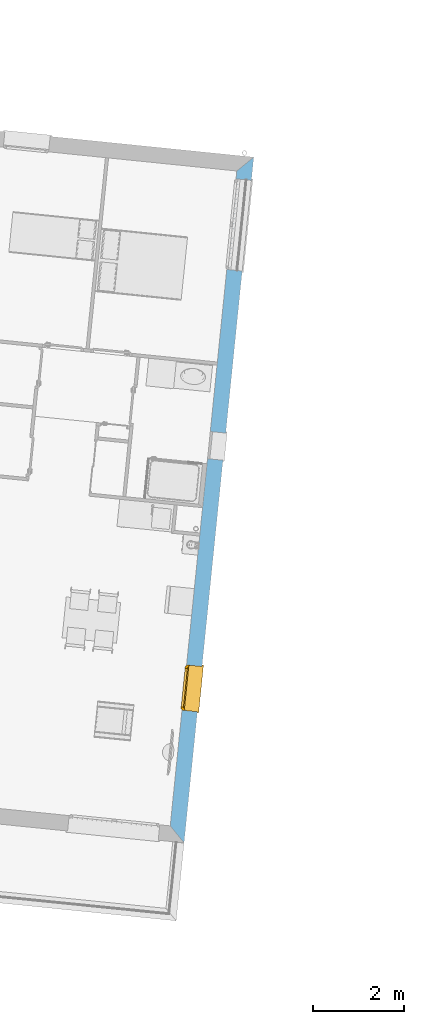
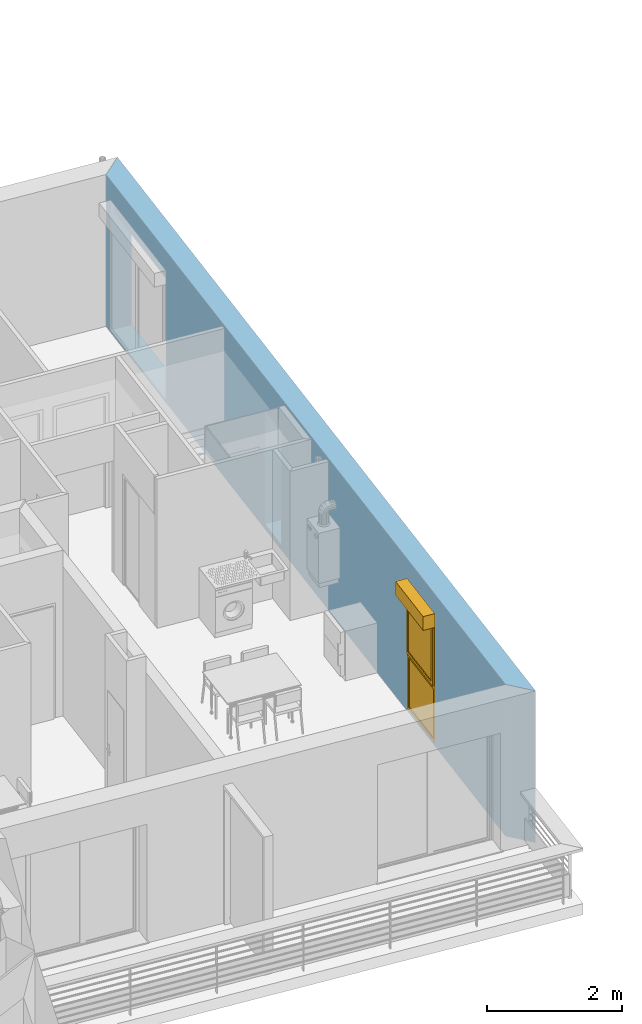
# One storey, part 58 of 164: 1 window, 3 openings, plus 1 element that does not belong to this part.
"""IFC2X3 building model written with IfcOpenShell, lengths in millimetres."""

from ifc_helpers import new_model, entity, si_unit, converted_unit, derived_unit, money_unit, direction, frame, origin_with_axes, origin_2d_with_axis, place, context, subcontext, project, spatial, polyline, rectangle, outline, extrude, open_shell, faceted_brep, surface_model, source, transform, mapped, material, layer, layer_set, layer_usage, type_object, element, fill, save


model = new_model("IFC2X3")

# Units and contexts
model_context = context("Model", 3, precision=0.01, world=origin_with_axes(), true_north=direction((0.0, 1.0)))
body_context = subcontext(model_context, "Body", "Model", "MODEL_VIEW")
ifc_project = project(units=[si_unit("LENGTHUNIT", "METRE", prefix="MILLI"), si_unit("AREAUNIT", "SQUARE_METRE"), si_unit("VOLUMEUNIT", "CUBIC_METRE"), converted_unit("PLANEANGLEUNIT", "DEGREE", entity("IfcPlaneAngleMeasure", 0.0174532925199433), si_unit("PLANEANGLEUNIT", "RADIAN"), dimensions=[0, 0, 0, 0, 0, 0, 0]), money_unit("USD"), converted_unit("TIMEUNIT", "Year", entity("IfcTimeMeasure", 31557600.0), si_unit("TIMEUNIT", "SECOND"), dimensions=[0, 0, 1, 0, 0, 0, 0]), si_unit("MASSUNIT", "GRAM", prefix="KILO"), si_unit("THERMODYNAMICTEMPERATUREUNIT", "DEGREE_CELSIUS"), si_unit("LUMINOUSINTENSITYUNIT", "LUMEN"), si_unit("ENERGYUNIT", "JOULE", prefix="MEGA"), derived_unit("THERMALCONDUCTANCEUNIT", [(si_unit("POWERUNIT", "WATT"), 1), (si_unit("LENGTHUNIT", "METRE"), -1), (si_unit("THERMODYNAMICTEMPERATUREUNIT", "KELVIN"), -1)]), derived_unit("SPECIFICHEATCAPACITYUNIT", [(si_unit("ENERGYUNIT", "JOULE"), 1), (si_unit("MASSUNIT", "GRAM", prefix="KILO"), -1), (si_unit("THERMODYNAMICTEMPERATUREUNIT", "KELVIN"), -1)]), derived_unit("MASSDENSITYUNIT", [(si_unit("MASSUNIT", "GRAM", prefix="KILO"), 1), (si_unit("VOLUMEUNIT", "CUBIC_METRE"), -1)])], contexts=[model_context])

# Site, building, storey
site_placement = place(None, origin_with_axes())
site = spatial("IfcSite", under=ifc_project, at=site_placement, Name="Site", CompositionType="ELEMENT")
building_placement = place(site_placement, origin_with_axes())
building = spatial("IfcBuilding", under=site, at=building_placement, Name="Bâtiment", CompositionType="ELEMENT")
storey_placement = place(building_placement, frame((0.0, 0.0, 5750.0), z_axis=(0.0, 0.0, 1.0), x_axis=(1.0, 0.0, 0.0)))
storey = spatial("IfcBuildingStorey", under=building, at=storey_placement, Name="Etage1", CompositionType="ELEMENT", Elevation=5750.0)

# Wall, openings, window
ifc_material_1 = material(Name="Parpaing 312445824")
ifc_layer_1 = layer(ifc_material_1, 180.0, ventilated="UNKNOWN")
ifc_material_2 = material(Name="Isolant styromousse 301821074")
ifc_layer_2 = layer(ifc_material_2, 160.0, ventilated="UNKNOWN")
ifc_layer_set = layer_set([ifc_layer_1, ifc_layer_2], Name="isol int 18+16 0018356637")
ifc_layer_usage = layer_usage(ifc_layer_set, "AXIS2", "NEGATIVE", 0.0)
wall_type = type_object("IfcWallType", Name="isol int 18+16 0018356637 340", PredefinedType="NOTDEFINED")
wall_placement = place(storey_placement, frame((2240182.946874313, -606236.1516955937, 0.0), z_axis=(0.0, 0.0, 1.0), x_axis=(-0.1011032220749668, -0.9948759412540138, 0.0)))
wall = element("IfcWallStandardCase", 1, at=wall_placement, inside=storey, type_object=wall_type, material=ifc_layer_usage, Name="Mur-142", context=body_context, shape_type="SweptSolid", body=[
    extrude(outline(polyline([(340.0000000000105, -340.0000000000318), (14791.61370310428, -340.0000000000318), (15131.61370310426, -1.13686837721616e-10), (0.0, 0.0), (340.0000000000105, -340.0000000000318)])), origin_with_axes(), (0.0, 0.0, 1.0), 2750.0),
])
opening_1_placement = place(wall_placement, frame((6388.845141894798, -3.410605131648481e-10, 99.99999999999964), z_axis=(0.0, 0.0, 1.0), x_axis=(1.0, 0.0, 0.0)))
element("IfcOpeningElement", 2, at=opening_1_placement, cuts=wall, Name="Fen-133", context=body_context, shape_type="SweptSolid", body=[
    extrude(rectangle(XDim=599.9999999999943, YDim=2050.0, at=origin_2d_with_axis()), frame((0.0, -290.0000000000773, 1025.0), z_axis=(0.0, -1.0, 0.0), x_axis=(-1.0, 0.0, 0.0)), (0.0, 0.0, -1.0), 629.9999999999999),
    extrude(rectangle(XDim=599.9999999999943, YDim=2050.0, at=origin_2d_with_axis()), frame((0.0, -290.0000000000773, 1025.0), z_axis=(0.0, 1.0, 0.0), x_axis=(-1.0, 0.0, 0.0)), (0.0, 0.0, -1.0), 389.9999999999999),
])
opening_2_placement = place(wall_placement, frame((11739.30937232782, -3.410605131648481e-10, 49.99999999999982), z_axis=(0.0, 0.0, 1.0), x_axis=(1.0, 0.0, 0.0)))
opening_2 = element("IfcOpeningElement", 3, at=opening_2_placement, cuts=wall, Name="Fen-133", context=body_context, shape_type="Brep", body=[
    faceted_brep([(-500.0, -290.0000000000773, 2100.0), (-500.0000000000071, -279.999999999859, 2100.0), (-499.9999999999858, 1523.015834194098, 2100.0), (-499.9999999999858, 1523.015834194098, 0.0), (-499.9999999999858, -290.0000000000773, 0.0), (-499.9999999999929, -529.9999999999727, 2100.0), (-499.9999999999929, -529.9999999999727, 2350.0), (-500.0000000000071, -279.999999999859, 2350.0), (500.0, -279.9999999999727, 2100.0), (500.0000000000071, 1523.015834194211, 2100.0), (500.0000000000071, 1523.015834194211, 0.0), (500.0000000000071, -289.9999999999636, 0.0), (500.0, -1863.015834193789, 0.0), (-500.0, -1863.015834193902, 0.0), (-500.0, -1863.015834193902, 2100.0), (500.0000000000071, -529.9999999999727, 2100.0), (500.0000000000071, -529.9999999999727, 2350.0), (500.0, -279.9999999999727, 2350.0), (500.0, -289.9999999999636, 2100.0), (500.0, -1863.015834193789, 2100.0)], [[[0, 1, 2, 3, 4]], [[1, 0, 5, 6, 7]], [[1, 8, 9, 2]], [[9, 10, 3, 2]], [[4, 3, 10, 11, 12, 13]], [[5, 0, 4, 13, 14]], [[5, 15, 16, 6]], [[16, 17, 7, 6]], [[8, 1, 7, 17]], [[8, 18, 11, 10, 9]], [[18, 15, 19, 12, 11]], [[14, 13, 12, 19]], [[15, 5, 14, 19]], [[18, 8, 17, 16, 15]]]),
])
opening_3_placement = place(wall_placement, frame((1513.435922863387, -3.410605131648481e-10, 49.99999999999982), z_axis=(0.0, 0.0, 1.0), x_axis=(1.0, 0.0, 0.0)))
element("IfcOpeningElement", 4, at=opening_3_placement, cuts=wall, Name="Fen-207", context=body_context, shape_type="Brep", body=[
    faceted_brep([(-1000.0, -290.0000000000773, 2100.0), (-999.999999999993, -279.9999999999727, 2100.0), (-1000.000000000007, 1523.015834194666, 2100.0), (-1000.000000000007, 1523.015834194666, 0.0), (-999.999999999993, -290.0000000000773, 0.0), (-1000.0, -529.9999999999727, 2100.0), (-1000.0, -529.9999999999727, 2350.0), (-999.999999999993, -279.9999999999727, 2350.0), (1000.000000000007, -279.9999999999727, 2100.0), (1000.0, 1523.015834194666, 2100.0), (1000.0, 1523.015834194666, 0.0), (1000.0, -289.9999999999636, 0.0), (1000.000000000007, -1863.015834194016, 0.0), (-1000.0, -1863.015834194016, 0.0), (-1000.0, -1863.015834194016, 2100.0), (1000.0, -530.0000000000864, 2100.0), (1000.0, -530.0000000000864, 2350.0), (1000.000000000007, -279.9999999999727, 2350.0), (1000.0, -289.9999999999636, 2100.0), (1000.000000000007, -1863.015834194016, 2100.0)], [[[0, 1, 2, 3, 4]], [[1, 0, 5, 6, 7]], [[1, 8, 9, 2]], [[9, 10, 3, 2]], [[4, 3, 10, 11, 12, 13]], [[5, 0, 4, 13, 14]], [[5, 15, 16, 6]], [[7, 6, 16, 17]], [[8, 1, 7, 17]], [[8, 18, 11, 10, 9]], [[18, 15, 19, 12, 11]], [[14, 13, 12, 19]], [[15, 5, 14, 19]], [[18, 8, 17, 16, 15]]]),
])
window_style = type_object("IfcWindowStyle", Name="Fenêtre 27", ConstructionType="NOTDEFINED", OperationType="DOUBLE_PANEL_HORIZONTAL", ParameterTakesPrecedence=False, Sizeable=False)
shared_shape = source(origin_with_axes(), body_context, "Body", "SurfaceModel", [
    surface_model("IfcShellBasedSurfaceModel", [(-500.0, -51.00000000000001, 40.00000000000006), (500.0, -51.00000000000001, 40.0), (500.0, -51.00000000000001, 50.0), (-500.0, -51.00000000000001, 50.00000000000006), (-530.0, -369.9999999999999, 28.96551724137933), (530.0, -369.9999999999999, 28.96551724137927), (530.0, -339.9999999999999, 30.00324289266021), (500.0, -339.9999999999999, 30.00324289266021), (-500.0, -339.9999999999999, 30.00324289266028), (-530.0, -339.9999999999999, 30.00324289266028), (-530.0, -369.9999999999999, 8.96551724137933), (530.0, -369.9999999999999, 8.965517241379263), (-530.0, -359.9999999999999, 18.96551724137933), (530.0, -359.9999999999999, 18.96551724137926)], [open_shell([[[0, 1, 2, 3]], [[4, 5, 6, 7, 1, 0, 8, 9]], [[10, 11, 5, 4]], [[12, 13, 11, 10]]])]),
    faceted_brep([(500.0, -59.99999999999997, 2350.0), (500.0, 190.0, 2350.0), (497.0, 190.0, 2350.0), (497.0, -59.99999999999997, 2350.0), (500.0, -59.99999999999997, 2100.0), (500.0, 190.0, 2100.0), (497.0, 190.0, 2100.0), (497.0, -59.99999999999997, 2100.0)], [[[0, 1, 2, 3]], [[0, 4, 5, 1]], [[1, 5, 6, 2]], [[3, 2, 6, 7]], [[4, 0, 3, 7]], [[5, 4, 7, 6]]]),
    faceted_brep([(-497.0, -59.99999999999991, 2350.0), (-497.0, 190.0000000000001, 2350.0), (-500.0, 190.0000000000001, 2350.0), (-500.0, -59.99999999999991, 2350.0), (-497.0, -59.99999999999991, 2100.0), (-497.0, 190.0000000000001, 2100.0), (-500.0, 190.0000000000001, 2100.0), (-500.0, -59.99999999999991, 2100.0)], [[[0, 1, 2, 3]], [[0, 4, 5, 1]], [[1, 5, 6, 2]], [[3, 2, 6, 7]], [[4, 0, 3, 7]], [[5, 4, 7, 6]]]),
    faceted_brep([(497.0, -60.0, 2100.0), (497.0, -60.0, 2350.0), (-497.0, -59.99999999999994, 2350.0), (-497.0, -59.99999999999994, 2100.0), (497.0, -56.99999999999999, 2100.0), (497.0, -56.99999999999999, 2347.0), (497.0, 187.0, 2347.0), (497.0, 187.0, 2103.0), (497.0, -37.99999999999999, 2103.0), (497.0, -37.99999999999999, 2100.0), (497.0, 190.0, 2100.0), (497.0, 190.0, 2350.0), (-497.0, 190.0000000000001, 2350.0), (-497.0, 190.0000000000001, 2100.0), (-497.0, -37.99999999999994, 2100.0), (-497.0, -37.99999999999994, 2103.0), (-497.0, 187.0000000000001, 2103.0), (-497.0, 187.0000000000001, 2347.0), (-497.0, -56.99999999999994, 2347.0), (-497.0, -56.99999999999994, 2100.0)], [[[0, 1, 2, 3]], [[0, 4, 5, 6, 7, 8, 9, 10, 11, 1]], [[1, 11, 12, 2]], [[3, 2, 12, 13, 14, 15, 16, 17, 18, 19]], [[4, 0, 3, 19]], [[5, 4, 19, 18]], [[6, 5, 18, 17]], [[7, 6, 17, 16]], [[8, 7, 16, 15]], [[9, 8, 15, 14]], [[10, 9, 14, 13]], [[11, 10, 13, 12]]]),
    faceted_brep([(494.0, -40.37442957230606, 2206.419644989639), (494.0, -35.54711042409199, 2188.403844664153), (494.0, -27.66471820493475, 2171.5), (494.0, -16.9667554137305, 2156.22172576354), (494.0, -3.778274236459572, 2143.03324458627), (494.0, 11.50000000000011, 2132.335281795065), (494.0, 28.40384466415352, 2124.452889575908), (494.0, 46.4196449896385, 2119.625570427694), (494.0, 65.00000000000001, 2118.0), (494.0, 83.58035501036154, 2119.625570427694), (494.0, 101.5961553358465, 2124.452889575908), (494.0, 118.4999999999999, 2132.335281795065), (494.0, 133.7782742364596, 2143.03324458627), (494.0, 146.9667554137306, 2156.22172576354), (494.0, 157.6647182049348, 2171.5), (494.0, 165.5471104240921, 2188.403844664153), (494.0, 170.3744295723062, 2206.419644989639), (494.0, 171.9999999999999, 2225.0), (494.0, 170.3744295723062, 2243.580355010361), (494.0, 165.5471104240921, 2261.596155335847), (494.0, 157.6647182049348, 2278.5), (494.0, 146.9667554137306, 2293.77827423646), (494.0, 133.7782742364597, 2306.966755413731), (494.0, 118.5, 2317.664718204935), (494.0, 101.5961553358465, 2325.547110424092), (494.0, 83.58035501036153, 2330.374429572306), (494.0, 64.99999999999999, 2332.0), (494.0, 46.41964498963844, 2330.374429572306), (494.0, 28.40384466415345, 2325.547110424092), (494.0, 11.5, 2317.664718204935), (494.0, -3.778274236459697, 2306.966755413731), (494.0, -16.96675541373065, 2293.77827423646), (494.0, -27.66471820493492, 2278.5), (494.0, -35.54711042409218, 2261.596155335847), (494.0, -40.37442957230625, 2243.580355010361), (494.0, -41.99999999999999, 2225.0), (-494.0, -40.374429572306, 2206.419644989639), (-494.0, -35.54711042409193, 2188.403844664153), (-494.0, -27.6647182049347, 2171.5), (-494.0, -16.96675541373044, 2156.22172576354), (-494.0, -3.778274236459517, 2143.03324458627), (-494.0, 11.50000000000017, 2132.335281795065), (-494.0, 28.40384466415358, 2124.452889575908), (-494.0, 46.41964498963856, 2119.625570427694), (-494.0, 65.00000000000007, 2118.0), (-494.0, 83.5803550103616, 2119.625570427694), (-494.0, 101.5961553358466, 2124.452889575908), (-494.0, 118.5, 2132.335281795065), (-494.0, 133.7782742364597, 2143.03324458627), (-494.0, 146.9667554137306, 2156.22172576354), (-494.0, 157.6647182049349, 2171.5), (-494.0, 165.5471104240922, 2188.403844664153), (-494.0, 170.3744295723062, 2206.419644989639), (-494.0, 172.0, 2225.0), (-494.0, 170.3744295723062, 2243.580355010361), (-494.0, 165.5471104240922, 2261.596155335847), (-494.0, 157.6647182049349, 2278.5), (-494.0, 146.9667554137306, 2293.77827423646), (-494.0, 133.7782742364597, 2306.966755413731), (-494.0, 118.5, 2317.664718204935), (-494.0, 101.5961553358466, 2325.547110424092), (-494.0, 83.58035501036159, 2330.374429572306), (-494.0, 65.00000000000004, 2332.0), (-494.0, 46.41964498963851, 2330.374429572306), (-494.0, 28.40384466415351, 2325.547110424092), (-494.0, 11.50000000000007, 2317.664718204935), (-494.0, -3.778274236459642, 2306.966755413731), (-494.0, -16.96675541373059, 2293.77827423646), (-494.0, -27.66471820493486, 2278.5), (-494.0, -35.54711042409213, 2261.596155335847), (-494.0, -40.37442957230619, 2243.580355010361), (-494.0, -41.99999999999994, 2225.0)], [[[0, 1, 2, 3, 4, 5, 6, 7, 8, 9, 10, 11, 12, 13, 14, 15, 16, 17, 18, 19, 20, 21, 22, 23, 24, 25, 26, 27, 28, 29, 30, 31, 32, 33, 34, 35]], [[1, 0, 36, 37]], [[2, 1, 37, 38]], [[3, 2, 38, 39]], [[4, 3, 39, 40]], [[5, 4, 40, 41]], [[6, 5, 41, 42]], [[7, 6, 42, 43]], [[8, 7, 43, 44]], [[9, 8, 44, 45]], [[10, 9, 45, 46]], [[11, 10, 46, 47]], [[12, 11, 47, 48]], [[13, 12, 48, 49]], [[14, 13, 49, 50]], [[15, 14, 50, 51]], [[16, 15, 51, 52]], [[17, 16, 52, 53]], [[18, 17, 53, 54]], [[19, 18, 54, 55]], [[20, 19, 55, 56]], [[21, 20, 56, 57]], [[22, 21, 57, 58]], [[23, 22, 58, 59]], [[24, 23, 59, 60]], [[25, 24, 60, 61]], [[26, 25, 61, 62]], [[27, 26, 62, 63]], [[28, 27, 63, 64]], [[29, 28, 64, 65]], [[30, 29, 65, 66]], [[31, 30, 66, 67]], [[32, 31, 67, 68]], [[33, 32, 68, 69]], [[34, 33, 69, 70]], [[35, 34, 70, 71]], [[0, 35, 71, 36]], [[36, 71, 70, 69, 68, 67, 66, 65, 64, 63, 62, 61, 60, 59, 58, 57, 56, 55, 54, 53, 52, 51, 50, 49, 48, 47, 46, 45, 44, 43, 42, 41, 40, 39, 38, 37]]]),
    faceted_brep([(-500.0, -34.99999999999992, 30.0), (-500.0, -59.99999999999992, 30.0), (-500.0, -59.99999999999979, 2100.0), (-500.0, -34.99999999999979, 2100.0), (-475.0, -34.99999999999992, 30.0), (-475.0, -37.99999999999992, 30.0), (-497.0, -37.99999999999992, 30.0), (-497.0, -56.99999999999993, 30.0), (-475.0, -56.99999999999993, 30.0), (-475.0, -59.99999999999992, 30.0), (-475.0, -59.99999999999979, 2100.0), (-475.0, -56.99999999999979, 2100.0), (-497.0, -56.99999999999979, 2100.0), (-497.0, -37.99999999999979, 2100.0), (-475.0, -37.99999999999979, 2100.0), (-475.0, -34.99999999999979, 2100.0)], [[[0, 1, 2, 3]], [[0, 4, 5, 6, 7, 8, 9, 1]], [[1, 9, 10, 2]], [[3, 2, 10, 11, 12, 13, 14, 15]], [[4, 0, 3, 15]], [[5, 4, 15, 14]], [[6, 5, 14, 13]], [[7, 6, 13, 12]], [[8, 7, 12, 11]], [[9, 8, 11, 10]]]),
    faceted_brep([(500.0, -34.99999999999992, 30.0), (500.0, -34.99999999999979, 2100.0), (500.0, -59.99999999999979, 2100.0), (500.0, -59.99999999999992, 30.0), (475.0, -34.99999999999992, 30.0), (475.0, -34.99999999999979, 2100.0), (475.0, -37.99999999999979, 2100.0), (497.0, -37.99999999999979, 2100.0), (497.0, -56.99999999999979, 2100.0), (475.0, -56.99999999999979, 2100.0), (475.0, -59.99999999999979, 2100.0), (475.0, -59.99999999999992, 30.0), (475.0, -56.99999999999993, 30.0), (497.0, -56.99999999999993, 30.0), (497.0, -37.99999999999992, 30.0), (475.0, -37.99999999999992, 30.0)], [[[0, 1, 2, 3]], [[4, 5, 1, 0]], [[1, 5, 6, 7, 8, 9, 10, 2]], [[3, 2, 10, 11]], [[0, 3, 11, 12, 13, 14, 15, 4]], [[15, 6, 5, 4]], [[14, 7, 6, 15]], [[13, 8, 7, 14]], [[12, 9, 8, 13]], [[11, 10, 9, 12]]]),
    faceted_brep([(-497.0, -46.66666666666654, 2225.0), (497.0, -46.6666666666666, 2225.0), (497.0, -46.6666666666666, 2216.666666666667), (-497.0, -46.66666666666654, 2216.666666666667), (-497.0, -51.66666666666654, 2225.0), (497.0, -51.6666666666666, 2225.0), (497.0, -51.6666666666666, 2216.666666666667), (497.0, -49.99999999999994, 2200.0), (497.0, -44.99999999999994, 2200.0), (-497.0, -44.99999999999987, 2200.0), (-497.0, -49.99999999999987, 2200.0), (-497.0, -51.66666666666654, 2216.666666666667)], [[[0, 1, 2, 3]], [[1, 0, 4, 5]], [[1, 5, 6, 7, 8, 2]], [[2, 8, 9, 3]], [[4, 0, 3, 9, 10, 11]], [[6, 5, 4, 11]], [[7, 6, 11, 10]], [[8, 7, 10, 9]]]),
    faceted_brep([(497.0, -44.99999999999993, 2200.0), (497.0, -46.6666666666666, 2183.333333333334), (-497.0, -46.66666666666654, 2183.333333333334), (-497.0, -44.99999999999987, 2200.0), (497.0, -49.99999999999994, 2200.0), (497.0, -51.6666666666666, 2183.333333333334), (497.0, -51.6666666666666, 2166.666666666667), (497.0, -49.99999999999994, 2150.000000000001), (497.0, -44.99999999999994, 2150.000000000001), (497.0, -46.6666666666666, 2166.666666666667), (-497.0, -46.66666666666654, 2166.666666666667), (-497.0, -44.99999999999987, 2150.000000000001), (-497.0, -49.99999999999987, 2150.000000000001), (-497.0, -51.66666666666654, 2166.666666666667), (-497.0, -51.66666666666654, 2183.333333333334), (-497.0, -49.99999999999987, 2200.0)], [[[0, 1, 2, 3]], [[0, 4, 5, 6, 7, 8, 9, 1]], [[1, 9, 10, 2]], [[3, 2, 10, 11, 12, 13, 14, 15]], [[4, 0, 3, 15]], [[5, 4, 15, 14]], [[6, 5, 14, 13]], [[7, 6, 13, 12]], [[8, 7, 12, 11]], [[9, 8, 11, 10]]]),
    faceted_brep([(497.0, -44.99999999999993, 2150.000000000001), (497.0, -46.6666666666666, 2133.333333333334), (-497.0, -46.66666666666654, 2133.333333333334), (-497.0, -44.99999999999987, 2150.000000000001), (497.0, -49.99999999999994, 2150.000000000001), (497.0, -51.6666666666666, 2133.333333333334), (497.0, -51.6666666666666, 2116.666666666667), (497.0, -49.99999999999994, 2100.000000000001), (497.0, -44.99999999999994, 2100.000000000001), (497.0, -46.6666666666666, 2116.666666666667), (-497.0, -46.66666666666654, 2116.666666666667), (-497.0, -44.99999999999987, 2100.000000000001), (-497.0, -49.99999999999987, 2100.000000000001), (-497.0, -51.66666666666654, 2116.666666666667), (-497.0, -51.66666666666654, 2133.333333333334), (-497.0, -49.99999999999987, 2150.000000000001)], [[[0, 1, 2, 3]], [[0, 4, 5, 6, 7, 8, 9, 1]], [[1, 9, 10, 2]], [[3, 2, 10, 11, 12, 13, 14, 15]], [[4, 0, 3, 15]], [[5, 4, 15, 14]], [[6, 5, 14, 13]], [[7, 6, 13, 12]], [[8, 7, 12, 11]], [[9, 8, 11, 10]]]),
    faceted_brep([(475.0000000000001, 0.0, 2050.0), (475.0000000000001, -25.00000000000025, 2050.0), (450.0, -25.00000000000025, 2050.0), (450.0, -50.00000000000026, 2050.0), (500.0, -50.00000000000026, 2050.0), (500.0, 0.0, 2050.0), (475.0000000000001, 0.0, 1025.0), (475.0000000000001, -25.00000000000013, 1025.0), (450.0, -25.00000000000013, 1050.0), (450.0, -25.00000000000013, 1025.0), (450.0, -50.00000000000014, 1050.0), (450.0, -50.00000000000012, 950.0), (450.0, -50.00000000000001, 50.00000000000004), (500.0, -50.00000000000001, 50.00000000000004), (500.0, 0.0, 50.00000000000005), (450.0, 0.0, 50.00000000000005), (450.0, 0.0, 950.0), (450.0, 0.0, 1025.0)], [[[0, 1, 2, 3, 4, 5]], [[1, 0, 6, 7]], [[8, 2, 1, 7, 9]], [[2, 8, 10, 3]], [[10, 11, 12, 13, 4, 3]], [[5, 4, 13, 14]], [[6, 0, 5, 14, 15, 16, 17]], [[6, 17, 9, 7]], [[9, 17, 16, 11, 10, 8]], [[15, 12, 11, 16]], [[14, 13, 12, 15]]]),
    faceted_brep([(-450.0, -25.00000000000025, 2050.0), (-475.0000000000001, -25.00000000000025, 2050.0), (-475.0000000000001, 0.0, 2050.0), (-500.0, 0.0, 2050.0), (-500.0, -50.00000000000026, 2050.0), (-450.0, -50.00000000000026, 2050.0), (-450.0, -25.00000000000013, 1050.0), (-450.0, -25.00000000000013, 1025.0), (-475.0000000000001, -25.00000000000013, 1025.0), (-475.0000000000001, 0.0, 1025.0), (-450.0, 0.0, 1025.0), (-450.0, 0.0, 950.0), (-450.0, 0.0, 50.00000000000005), (-500.0, 0.0, 50.00000000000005), (-500.0, -50.00000000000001, 50.00000000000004), (-450.0, -50.00000000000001, 50.00000000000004), (-450.0, -50.00000000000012, 950.0), (-450.0, -50.00000000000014, 1050.0)], [[[0, 1, 2, 3, 4, 5]], [[1, 0, 6, 7, 8]], [[9, 2, 1, 8]], [[9, 10, 11, 12, 13, 3, 2]], [[13, 14, 4, 3]], [[14, 15, 16, 17, 5, 4]], [[6, 0, 5, 17]], [[7, 6, 17, 16, 11, 10]], [[10, 9, 8, 7]], [[11, 16, 15, 12]], [[12, 15, 14, 13]]]),
    faceted_brep([(450.0, -25.00000000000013, 1050.0), (-450.0, -25.00000000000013, 1050.0), (-450.0, -50.00000000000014, 1050.0), (450.0, -50.00000000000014, 1050.0), (-450.0, -25.00000000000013, 1025.0), (450.0, -25.00000000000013, 1025.0), (-450.0, 0.0, 1025.0), (-450.0, 0.0, 950.0), (-450.0, -50.00000000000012, 950.0), (450.0, -50.00000000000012, 950.0), (450.0, 0.0, 950.0), (450.0, 0.0, 1025.0)], [[[0, 1, 2, 3]], [[4, 1, 0, 5]], [[4, 6, 7, 8, 2, 1]], [[8, 9, 3, 2]], [[5, 0, 3, 9, 10, 11]], [[11, 6, 4, 5]], [[6, 11, 10, 7]], [[10, 9, 8, 7]]]),
    faceted_brep([(475.0000000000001, 0.0, 2050.0), (475.0000000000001, 0.0, 2075.0), (-475.0000000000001, 0.0, 2075.0), (-475.0000000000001, 0.0, 2050.0), (-500.0, 0.0, 2050.0), (-500.0, 0.0, 2100.0), (500.0, 0.0, 2100.0), (500.0, 0.0, 2050.0), (475.0000000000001, -25.00000000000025, 2050.0), (475.0000000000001, -25.00000000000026, 2075.0), (-475.0000000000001, -25.00000000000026, 2075.0), (-475.0000000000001, -25.00000000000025, 2050.0), (-450.0, -25.00000000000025, 2050.0), (-450.0, -50.00000000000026, 2050.0), (-500.0, -50.00000000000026, 2050.0), (-500.0, -50.00000000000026, 2100.0), (500.0, -50.00000000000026, 2100.0), (500.0, -50.00000000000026, 2050.0), (450.0, -50.00000000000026, 2050.0), (450.0, -25.00000000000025, 2050.0)], [[[0, 1, 2, 3, 4, 5, 6, 7]], [[1, 0, 8, 9]], [[2, 1, 9, 10]], [[3, 2, 10, 11]], [[11, 12, 13, 14, 4, 3]], [[4, 14, 15, 5]], [[5, 15, 16, 6]], [[6, 16, 17, 7]], [[8, 0, 7, 17, 18, 19]], [[12, 11, 10, 9, 8, 19]], [[12, 19, 18, 13]], [[14, 13, 18, 17, 16, 15]]]),
    faceted_brep([(450.0, -50.00000000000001, 50.0), (500.0, -50.00000000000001, 50.0), (500.0, 0.0, 50.00000000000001), (450.0, 0.0, 50.00000000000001), (-450.0, -50.00000000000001, 50.0), (-500.0, -50.00000000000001, 50.0), (-500.0, -50.0, 0.0), (500.0, -50.0, 0.0), (500.0, 0.0, 0.0), (-500.0, 0.0, 0.0), (-500.0, 0.0, 50.00000000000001), (-450.0, 0.0, 50.00000000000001)], [[[0, 1, 2, 3]], [[0, 4, 5, 6, 7, 1]], [[1, 7, 8, 2]], [[3, 2, 8, 9, 10, 11]], [[4, 0, 3, 11]], [[5, 4, 11, 10]], [[6, 5, 10, 9]], [[7, 6, 9, 8]]]),
    faceted_brep([(425.0000000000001, -25.00000000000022, 2025.0), (475.0000000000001, -25.00000000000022, 2025.0), (475.0000000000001, 24.99999999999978, 2025.0), (425.0000000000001, 24.99999999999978, 2025.0), (425.0000000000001, -25.00000000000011, 1075.0), (475.0000000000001, -25.0000000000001, 1075.0), (475.0000000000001, 24.9999999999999, 1075.0), (425.0000000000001, 24.9999999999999, 1075.0)], [[[0, 1, 2, 3]], [[0, 4, 5, 1]], [[1, 5, 6, 2]], [[3, 2, 6, 7]], [[4, 0, 3, 7]], [[5, 4, 7, 6]]]),
    faceted_brep([(-425.0000000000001, -25.00000000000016, 1075.0), (-475.0000000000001, -25.00000000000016, 1075.0), (-475.0000000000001, 24.99999999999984, 1075.0), (-425.0000000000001, 24.99999999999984, 1075.0), (-425.0000000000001, -25.00000000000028, 2025.0), (-475.0000000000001, -25.00000000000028, 2025.0), (-475.0000000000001, 24.99999999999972, 2025.0), (-425.0000000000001, 24.99999999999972, 2025.0)], [[[0, 1, 2, 3]], [[0, 4, 5, 1]], [[1, 5, 6, 2]], [[3, 2, 6, 7]], [[4, 0, 3, 7]], [[5, 4, 7, 6]]]),
    faceted_brep([(-475.0000000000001, -25.00000000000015, 1025.0), (-475.0000000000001, -25.00000000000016, 1075.0), (-475.0000000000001, 24.99999999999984, 1075.0), (-475.0000000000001, 24.99999999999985, 1025.0), (475.0000000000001, -25.0000000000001, 1025.0), (475.0000000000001, -25.0000000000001, 1075.0), (425.0000000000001, -25.00000000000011, 1075.0), (-425.0000000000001, -25.00000000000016, 1075.0), (-425.0000000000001, 24.99999999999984, 1075.0), (425.0000000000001, 24.9999999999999, 1075.0), (475.0000000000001, 24.9999999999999, 1075.0), (475.0000000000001, 24.9999999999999, 1025.0)], [[[0, 1, 2, 3]], [[0, 4, 5, 6, 7, 1]], [[1, 7, 8, 2]], [[3, 2, 8, 9, 10, 11]], [[4, 0, 3, 11]], [[5, 4, 11, 10]], [[6, 5, 10, 9]], [[7, 6, 9, 8]]]),
    faceted_brep([(475.0000000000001, -25.00000000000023, 2075.0), (475.0000000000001, -25.00000000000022, 2025.0), (475.0000000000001, 24.99999999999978, 2025.0), (475.0000000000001, 24.99999999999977, 2075.0), (-475.0000000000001, -25.00000000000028, 2075.0), (-475.0000000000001, -25.00000000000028, 2025.0), (-425.0000000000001, -25.00000000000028, 2025.0), (425.0000000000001, -25.00000000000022, 2025.0), (425.0000000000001, 24.99999999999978, 2025.0), (-425.0000000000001, 24.99999999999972, 2025.0), (-475.0000000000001, 24.99999999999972, 2025.0), (-475.0000000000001, 24.99999999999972, 2075.0)], [[[0, 1, 2, 3]], [[0, 4, 5, 6, 7, 1]], [[1, 7, 8, 2]], [[3, 2, 8, 9, 10, 11]], [[4, 0, 3, 11]], [[5, 4, 11, 10]], [[6, 5, 10, 9]], [[7, 6, 9, 8]]]),
    surface_model("IfcShellBasedSurfaceModel", [(425.0000000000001, -10.00000000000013, 1075.0), (425.0000000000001, -10.00000000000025, 2025.0), (-425.0000000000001, -10.00000000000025, 2025.0), (-425.0000000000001, -10.00000000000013, 1075.0)], [open_shell([[[0, 1, 2, 3]]])]),
    surface_model("IfcShellBasedSurfaceModel", [(425.0000000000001, 9.999999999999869, 1075.0), (-425.0000000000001, 9.999999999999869, 1075.0), (-425.0000000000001, 9.999999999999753, 2025.0), (425.0000000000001, 9.999999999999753, 2025.0)], [open_shell([[[0, 1, 2, 3]]])]),
    surface_model("IfcShellBasedSurfaceModel", [(450.0, -35.0, 49.99999999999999), (450.0, -35.00000000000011, 950.0), (-450.0, -35.00000000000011, 950.0), (-450.0, -35.0, 49.99999999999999)], [open_shell([[[0, 1, 2, 3]]])]),
    surface_model("IfcShellBasedSurfaceModel", [(450.0, -15.0, 49.99999999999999), (-450.0, -15.0, 49.99999999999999), (-450.0, -15.00000000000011, 950.0), (450.0, -15.00000000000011, 950.0)], [open_shell([[[0, 1, 2, 3]]])]),
])
window_placement = place(opening_2_placement, frame((500.0000000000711, 1.13686837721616e-10, 0.0), z_axis=(0.0, 0.0, 1.0), x_axis=(-1.0, 0.0, 0.0)))
window = element("IfcWindow", 5, at=window_placement, inside=storey, type_object=window_style, Name="Fen-133", OverallHeight=2100.0, OverallWidth=1000.0, context=body_context, shape_type="MappedRepresentation", body=[
    mapped(shared_shape, transform((500.0, 340.0000000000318, 0.0))),
])
fill(opening_2, window)

save(model, "model.ifc")
